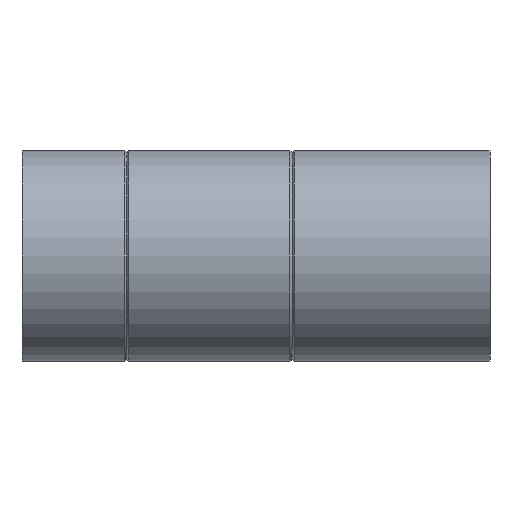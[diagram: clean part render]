
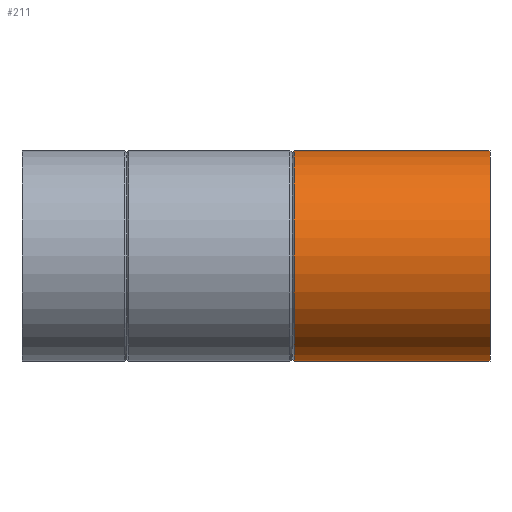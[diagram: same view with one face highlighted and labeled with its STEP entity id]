
A CAD part, left-side view. The second image highlights one B-rep face of the part: STEP entity #211.
In plain terms, the highlighted cylindrical face has radius 45.19 mm (diameter 90.38 mm), a full revolution.
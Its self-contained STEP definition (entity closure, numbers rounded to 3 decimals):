
#23=CYLINDRICAL_SURFACE($,#244,45.19);
#41=FACE_BOUND($,#87,.T.);
#57=FACE_OUTER_BOUND($,#86,.T.);
#86=EDGE_LOOP($,(#169));
#87=EDGE_LOOP($,(#170));
#100=CIRCLE($,#232,45.19);
#106=CIRCLE($,#245,45.19);
#116=VERTEX_POINT($,#403);
#123=VERTEX_POINT($,#489);
#133=EDGE_CURVE($,#116,#116,#100,.T.);
#140=EDGE_CURVE($,#123,#123,#106,.T.);
#169=ORIENTED_EDGE($,*,*,#133,.T.);
#170=ORIENTED_EDGE($,*,*,#140,.F.);
#211=ADVANCED_FACE($,(#57,#41),#23,.T.);
#232=AXIS2_PLACEMENT_3D($,#404,#280,#281);
#244=AXIS2_PLACEMENT_3D($,#488,#304,#305);
#245=AXIS2_PLACEMENT_3D($,#490,#306,#307);
#280=DIRECTION('center_axis',(0.,-1.,0.));
#281=DIRECTION('ref_axis',(1.,0.,0.));
#304=DIRECTION('center_axis',(0.,1.,0.));
#305=DIRECTION('ref_axis',(1.,0.,0.));
#306=DIRECTION('center_axis',(0.,-1.,0.));
#307=DIRECTION('ref_axis',(1.,0.,0.));
#403=CARTESIAN_POINT('',(-45.19,84.096,0.));
#404=CARTESIAN_POINT('Origin',(0.,84.096,0.));
#488=CARTESIAN_POINT('Origin',(0.,0.,0.));
#489=CARTESIAN_POINT('',(-45.19,0.,0.));
#490=CARTESIAN_POINT('Origin',(0.,0.,0.));
